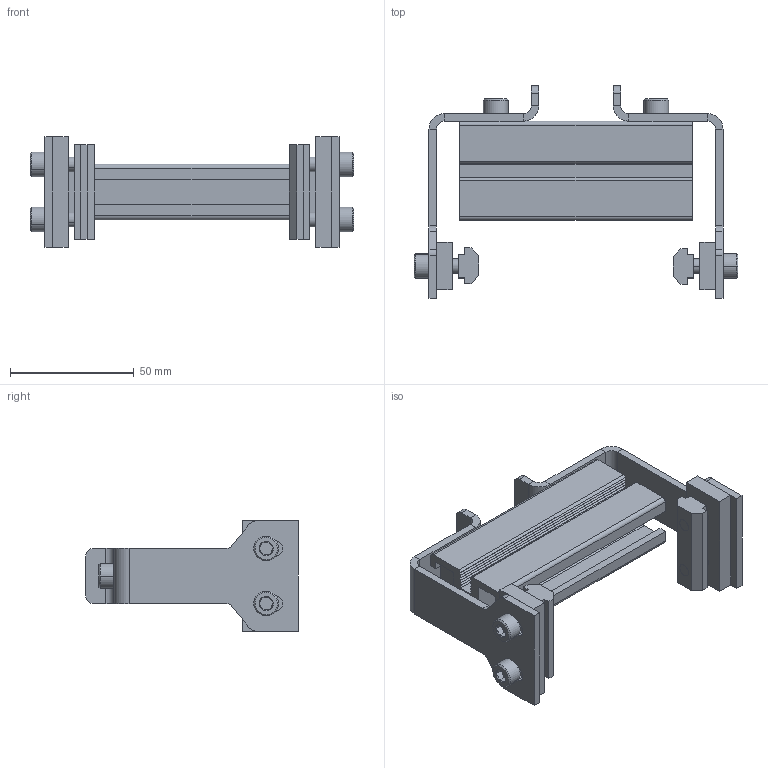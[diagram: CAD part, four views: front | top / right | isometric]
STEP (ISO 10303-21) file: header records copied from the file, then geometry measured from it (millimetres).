
FILE_DESCRIPTION((''),'2;1');
FILE_NAME('207133-04_ASM','2016-08-01T',('adam.dellomodarme'),(''),'PRO/ENGINEER BY PARAMETRIC TECHNOLOGY CORPORATION, 2012420','PRO/ENGINEER BY PARAMETRIC TECHNOLOGY CORPORATION, 2012420','');
FILE_SCHEMA(('CONFIG_CONTROL_DESIGN'));
Length unit declared in the file: inch
Products named in the file (9): 201937; 9206XXM_920620M; 200626M; 9206XXM_920614M; 639971M; 202444; 207135-WW_207135-04; ASM0001_ASM; 207133-04_ASM
Assembly tree (16 placements, depth 3):
  207133-04_ASM
    ASM0001_ASM
      201937  x2
      9206XXM_920620M  x4
      200626M  x2
      9206XXM_920614M  x2
      639971M  x2
      202444  x2
      207135-WW_207135-04
Bounding box: 130.77 x 85.8 x 44.45 mm (x, y, z)
Volume: 82386.5 mm3; surface area: 54068.6 mm2
Topology: 15 solids, 15 shells, 428 faces, 1050 edges, 664 vertices
Faces by surface type: plane 258, cylinder 104, cone 66
Entity records: 7562 total; most frequent: CARTESIAN_POINT 1397, DIRECTION 1272, ORIENTED_EDGE 1216, EDGE_CURVE 608, VECTOR 460, LINE 460, AXIS2_PLACEMENT_3D 406, VERTEX_POINT 392
